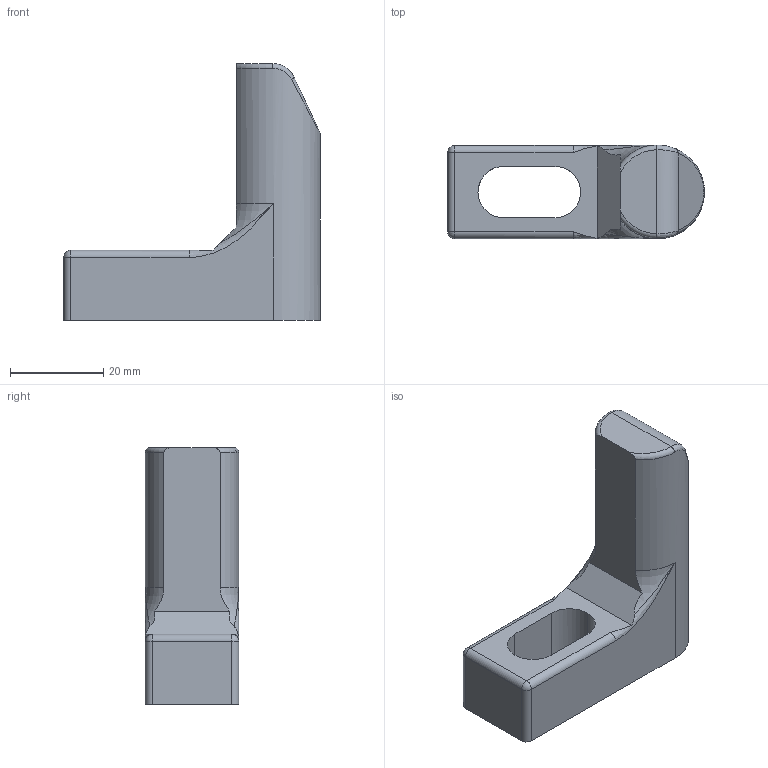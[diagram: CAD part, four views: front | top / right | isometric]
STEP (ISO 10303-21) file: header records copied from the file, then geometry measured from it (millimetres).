
FILE_DESCRIPTION(('CATIA V5 STEP Exchange'),'2;1');
FILE_NAME('C:\Users\Utente\Desktop\IO LAVORO\3D X SITO CF\X SITO\704\704-1.stp','2020-11-29T12:24:05+00:00',('none'),('none'),'CATIA Version 5 Release 20 GA (IN-10)','CATIA V5 STEP AP203','none');
FILE_SCHEMA(('CONFIG_CONTROL_DESIGN'));
Length unit declared in the file: millimetre
Products named in the file (1): 704-1
Bounding box: 55 x 20 x 55 mm (x, y, z)
Volume: 24187.2 mm3; surface area: 6886.9 mm2
Topology: 1 solids, 1 shells, 35 faces, 91 edges, 54 vertices
Faces by surface type: cylinder 12, plane 11, bspline 6, torus 4, sphere 2
Entity records: 1418 total; most frequent: CARTESIAN_POINT 648, ORIENTED_EDGE 174, DIRECTION 111, EDGE_CURVE 87, VERTEX_POINT 54, AXIS2_PLACEMENT_3D 50, EDGE_LOOP 37, ADVANCED_FACE 35
